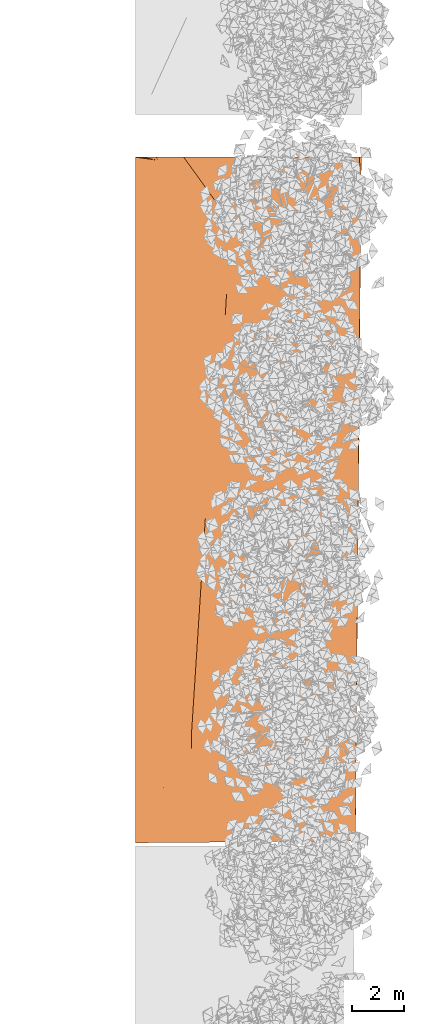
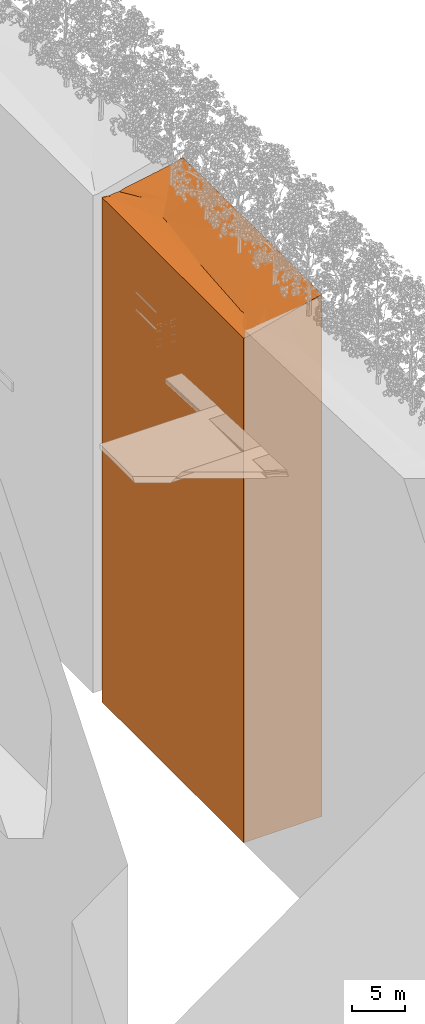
# One storey, part 59 of 69: 1 proxy.
"""IFC2X3 building model written with IfcOpenShell, lengths in millimetres."""

from ifc_helpers import new_model, entity, si_unit, converted_unit, derived_unit, money_unit, direction, frame, origin_with_axes, place, context, subcontext, project, spatial, faceted_brep, material, type_object, element, save


model = new_model("IFC2X3")

# Units and contexts
model_context = context("Model", 3, precision=0.01, world=origin_with_axes(), true_north=direction((0.0, 1.0)))
body_context = subcontext(model_context, "Body", "Model", "MODEL_VIEW")
ifc_project = project(units=[si_unit("LENGTHUNIT", "METRE", prefix="MILLI"), si_unit("AREAUNIT", "SQUARE_METRE"), si_unit("VOLUMEUNIT", "CUBIC_METRE"), converted_unit("PLANEANGLEUNIT", "DEGREE", entity("IfcPlaneAngleMeasure", 0.0174532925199), si_unit("PLANEANGLEUNIT", "RADIAN"), dimensions=[0, 0, 0, 0, 0, 0, 0]), si_unit("SOLIDANGLEUNIT", "STERADIAN"), money_unit("EUR"), converted_unit("TIMEUNIT", "Year", entity("IfcTimeMeasure", 31556926.0), si_unit("TIMEUNIT", "SECOND"), dimensions=[0, 0, 1, 0, 0, 0, 0]), si_unit("MASSUNIT", "GRAM", prefix="KILO"), si_unit("THERMODYNAMICTEMPERATUREUNIT", "DEGREE_CELSIUS"), si_unit("LUMINOUSINTENSITYUNIT", "LUMEN"), si_unit("ENERGYUNIT", "JOULE", prefix="MEGA"), derived_unit("THERMALCONDUCTANCEUNIT", [(si_unit("POWERUNIT", "WATT"), 1), (si_unit("LENGTHUNIT", "METRE"), -1), (si_unit("THERMODYNAMICTEMPERATUREUNIT", "KELVIN"), -1)]), derived_unit("SPECIFICHEATCAPACITYUNIT", [(si_unit("ENERGYUNIT", "JOULE"), 1), (si_unit("MASSUNIT", "GRAM", prefix="KILO"), -1), (si_unit("THERMODYNAMICTEMPERATUREUNIT", "KELVIN"), -1)]), derived_unit("MASSDENSITYUNIT", [(si_unit("MASSUNIT", "GRAM", prefix="KILO"), 1), (si_unit("VOLUMEUNIT", "CUBIC_METRE"), -1)])], contexts=[model_context])

# Site, building, storey
site_placement = place(None, origin_with_axes())
site = spatial("IfcSite", under=ifc_project, at=site_placement, Name="Puškini 31, Narva", CompositionType="ELEMENT")
building_placement = place(site_placement, origin_with_axes())
building = spatial("IfcBuilding", under=site, at=building_placement, Name="Narva Riigigümnaasium", CompositionType="ELEMENT")
storey_placement = place(building_placement, origin_with_axes())
storey = spatial("IfcBuildingStorey", under=building, at=storey_placement, Name="1.korrus 0.00", CompositionType="ELEMENT", Elevation=0.0)

# Proxy
ifc_material = material(Name="Roheala")
building_element_proxy_type = type_object("IfcBuildingElementProxyType", Name="Roheala", PredefinedType="NOTDEFINED")
proxy_placement = place(storey_placement, frame((54780.0000017, 194694.88357, -61100.0), z_axis=(0.0, 0.0, 1.0), x_axis=(1.0, 0.0, 0.0)))
element("IfcBuildingElementProxy", 1, at=proxy_placement, inside=storey, type_object=building_element_proxy_type, material=ifc_material, Name="Roheala", context=body_context, shape_type="Brep", body=[
    faceted_brep([(842.291271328, 4912.84294265, 57700.0), (0.001453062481, 26624.6815672, 57800.0), (0.0, 0.0, 57800.0), (865.881653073, 26503.1470742, 57700.0), (0.0, 0.0, 0.0), (0.001453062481, 26624.6815672, 0.0), (1087.14338126, 2140.6429828, 57700.0), (1646.06922087, 10250.812509, 57600.0), (1661.79614206, 24644.3485964, 57600.0), (263.07632883, 26624.1089151, 57794.4331277), (8549.70299371, 70.1164293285, 0.0), (8549.70299371, 70.1164293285, 59800.0), (8427.01221471, 69.1102377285, 59800.0), (8018.04295212, 65.7562657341, 59700.0), (7609.07368965, 62.4022937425, 59600.0), (7200.10442759, 59.0483217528, 59500.0), (6791.135165, 55.6943497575, 59400.0), (6382.16590254, 52.340377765, 59300.0), (5973.19664048, 48.9864057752, 59200.0), (5564.22737801, 45.6324337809, 59100.0), (5155.25811542, 42.2784617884, 59000.0), (4746.28885283, 38.924489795, 58900.0), (4337.31959089, 35.5705178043, 58800.0), (3928.3503283, 32.2165458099, 58700.0), (3519.38106571, 28.8625738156, 58600.0), (3110.41180378, 25.5086018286, 58500.0), (2701.44254119, 22.1546298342, 58400.0), (2292.4732786, 18.8006578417, 58300.0), (1879.48633013, 15.413736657, 58200.0), (1464.93059093, 12.0139497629, 58100.0), (1050.37485184, 8.6141628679, 58000.0), (635.819112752, 5.21437597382, 57900.0), (221.263372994, 1.8145890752, 57800.0), (263.07632883, 26624.1089151, 0.0), (8776.41925628, 26624.1089151, 0.0), (2178.78085069, 3647.92341441, 57700.0), (2449.84717039, 15588.7820744, 57500.0), (2457.71063094, 22785.5501186, 57500.0), (3183.24817347, 22540.3957742, 57600.0), (3148.05970024, 23347.2178413, 57700.0), (2178.9826361, 4217.20083813, 57600.0), (810.881705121, 26624.1089151, 57708.6348886), (8776.41925628, 26624.1089151, 59324.3533062), (8566.71496661, 2558.92746466, 59800.0), (8463.99823524, 495.136040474, 59800.0), (7892.63318091, 833.505568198, 59600.0), (7606.95065362, 1002.69033161, 59500.0), (7321.26812645, 1171.875095, 59400.0), (7035.58559916, 1341.05985841, 59300.0), (6749.90307187, 1510.24462182, 59200.0), (6464.22054459, 1679.42938523, 59100.0), (6178.53801741, 1848.61414862, 59000.0), (5892.85549013, 2017.79891203, 58900.0), (5607.17296296, 2186.98367636, 58800.0), (5321.49043579, 2356.16843976, 58700.0), (5035.8079085, 2525.35320316, 58600.0), (4750.12538122, 2694.53796657, 58500.0), (4464.44285404, 2863.72272997, 58400.0), (2177.77192426, 801.536298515, 58200.0), (2177.97370954, 1370.81372132, 58100.0), (2178.37728011, 2509.36856786, 57900.0), (822.809979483, 26624.1089151, 57707.6698279), (1345.9444967, 26624.1089151, 57800.0), (1878.31895618, 26624.1089151, 57800.0), (2222.50031744, 26624.1089151, 57925.9332517), (2425.92296941, 26624.1089151, 58000.0), (2971.67734889, 26624.1089151, 58100.0), (3005.14244676, 26624.1089151, 58106.147924), (3518.59522763, 26624.1089151, 58200.0), (3884.0362349, 26624.1089151, 58265.9986729), (4069.84223561, 26624.1089151, 58300.0), (4294.05935025, 26624.1089151, 58341.0303188), (4622.42427113, 26624.1089151, 58400.0), (4932.72305062, 26624.1089151, 58458.7672097), (5158.42767354, 26624.1089151, 58500.0), (5440.83071481, 26624.1089151, 58553.8260891), (5694.93852412, 26624.1089151, 58600.0), (5975.58351361, 26624.1089151, 58647.9302305), (6259.41447712, 26624.1089151, 58700.0), (6470.02118824, 26624.1089151, 58740.1934377), (6798.22897363, 26624.1089151, 58800.0), (6955.69787972, 26624.1089151, 58829.358885), (7345.18920518, 26624.1089151, 58900.0), (7426.76326395, 26624.1089151, 58914.6655814), (7733.94566651, 26624.1089151, 58970.5078343), (7812.96078572, 26624.1089151, 59000.0), (8080.87979889, 26624.1089151, 59100.0), (8348.79881201, 26624.1089151, 59200.0), (8616.71782514, 26624.1089151, 59300.0), (8701.81738807, 26624.1089151, 59300.8542941), (8774.19716442, 26624.1089151, 59331.0356687), (2178.57906552, 3078.64599159, 57800.0), (3524.66923676, 20992.0589694, 57500.0), (3538.90357887, 21289.5232969, 57500.0), (3218.4366467, 21733.573708, 57500.0), (2716.30387795, 12571.976239, 57500.0), (3489.63993306, 20492.1184482, 57500.0), (4109.46049663, 22015.0666082, 57700.0), (3824.18203769, 21652.2949521, 57600.0), (3112.87122701, 24154.0399075, 57800.0), (8699.8075335, 18790.9304939, 59500.0), (8623.42154277, 9607.41695609, 59700.0), (8178.31570807, 664.320803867, 59700.0), (4178.76032676, 3032.90749338, 58300.0), (2178.17549495, 1940.09114504, 58000.0), (3077.68275378, 24960.8619746, 57800.0), (3042.49428055, 25767.6840408, 58000.0), (3007.30580732, 26574.506108, 58100.0), (5250.57433214, 23466.1532308, 58100.0), (5535.85279108, 23828.9248869, 58200.0), (5821.1312499, 24191.696542, 58300.0), (6106.40970884, 24554.4681982, 58400.0), (6391.68816778, 24917.2398543, 58500.0), (6676.9666266, 25280.0115094, 58600.0), (6962.24508554, 25642.7831655, 58700.0), (7247.52354448, 26005.5548216, 58800.0), (7532.8020033, 26368.3264768, 58900.0), (7319.28687111, 21906.3615649, 58900.0), (7590.33098794, 21971.6688936, 59000.0), (7861.37510477, 22036.9762222, 59100.0), (8132.41922147, 22102.2835499, 59200.0), (8403.4633383, 22167.5908785, 59300.0), (8743.54401402, 23675.600188, 59400.0), (2464.66516338, 4048.01607472, 57700.0), (2750.34769056, 3878.83131133, 57800.0), (3795.71335346, 21057.3662972, 57600.0), (3725.65474595, 20057.4852548, 57600.0), (4394.73895544, 22377.8382634, 57800.0), (4066.75747017, 21122.6736258, 57700.0), (8663.67160266, 14472.1440251, 59600.0), (8386.46361811, 10755.5796882, 59600.0), (8076.08956912, 10428.660746, 59500.0), (7765.71552002, 10101.7418037, 59400.0), (7455.34147091, 9774.82286141, 59300.0), (7144.9674218, 9447.90391821, 59200.0), (6834.5933727, 9120.98497594, 59100.0), (6524.21932359, 8794.06603366, 59000.0), (6213.84527436, 8467.14709047, 58900.0), (5903.47122537, 8140.22814819, 58800.0), (5593.09717627, 7813.30920592, 58700.0), (5282.72312717, 7486.39026365, 58600.0), (4972.34907794, 7159.47132045, 58500.0), (4661.97502895, 6832.55237817, 58400.0), (4351.60097984, 6505.6334359, 58300.0), (3893.07779947, 3202.09225679, 58200.0), (3607.39527218, 3371.27702019, 58100.0), (3321.71274513, 3540.46178451, 58000.0), (3036.03021785, 3709.64654792, 57900.0), (4680.01741438, 22740.6099195, 57900.0), (4965.29587333, 23103.3815756, 58000.0), (5421.97805394, 21449.2102672, 58200.0), (5150.93393711, 21383.9029385, 58100.0), (5693.02217076, 21514.5175958, 58300.0), (5964.06628746, 21579.8249235, 58400.0), (6235.11040418, 21645.1322522, 58500.0), (6506.15452088, 21710.4395799, 58600.0), (6777.1986377, 21775.7469085, 58700.0), (7048.24275453, 21841.0542372, 58800.0), (6793.8473157, 14407.2537479, 58900.0), (7029.86212883, 13972.6205553, 59000.0), (7265.87694197, 13537.9873628, 59100.0), (7501.89175486, 13103.3541693, 59200.0), (7737.90656799, 12668.7209767, 59300.0), (8674.50745488, 22232.8982063, 59400.0), (2489.3566852, 4544.1197804, 57700.0), (2799.73073432, 4871.03872361, 57800.0), (3961.66955908, 19622.8520622, 57700.0), (4337.80158687, 21187.9809535, 57800.0), (8209.93619413, 11799.4545907, 59500.0), (8445.95100714, 11364.8213981, 59600.0), (7973.92138112, 12234.0877842, 59400.0), (6557.83250281, 14841.8869413, 58800.0), (6321.81768968, 15276.5201339, 58700.0), (6085.80287655, 15711.1533265, 58600.0), (5849.78806353, 16145.786519, 58500.0), (5613.77325052, 16580.4197125, 58400.0), (5377.75843739, 17015.052905, 58300.0), (4041.22693074, 6178.71449363, 58200.0), (3730.85288163, 5851.79555042, 58100.0), (3420.47883252, 5524.87660815, 58000.0), (3110.10478342, 5197.95766588, 57900.0), (4879.88982052, 21318.5956108, 58000.0), (4905.72881137, 17884.3192911, 58100.0), (5141.74362438, 17449.6860976, 58200.0), (4197.68437222, 19188.2188697, 57800.0), (4608.8457037, 21253.2882822, 57900.0), (4669.71399824, 18318.9524836, 58000.0), (4433.69918511, 18753.5856762, 57900.0)], [[[0, 1, 2]], [[1, 0, 3]], [[4, 2, 1, 5]], [[0, 2, 6]], [[7, 8, 3, 0]], [[9, 1, 3]], [[10, 11, 12, 13, 14, 15, 16, 17, 18, 19, 20, 21, 22, 23, 24, 25, 26, 27, 28, 29, 30, 31, 32, 2, 4]], [[5, 1, 9, 33]], [[5, 33, 34, 10, 4]], [[32, 6, 2]], [[6, 35, 0]], [[36, 37, 8, 7]], [[8, 38, 39, 3]], [[0, 40, 7]], [[41, 9, 3]], [[34, 42, 11, 10]], [[11, 43, 44, 12]], [[12, 44, 13]], [[13, 45, 14]], [[14, 46, 15]], [[15, 47, 16]], [[16, 48, 17]], [[17, 49, 18]], [[18, 50, 19]], [[19, 51, 20]], [[20, 52, 21]], [[21, 53, 22]], [[22, 54, 23]], [[23, 55, 24]], [[24, 56, 25]], [[25, 57, 26]], [[27, 26, 57]], [[28, 27, 58]], [[28, 58, 29]], [[30, 29, 59]], [[31, 30, 60]], [[32, 31, 60]], [[33, 9, 41, 61, 62, 63, 64, 65, 66, 67, 68, 69, 70, 71, 72, 73, 74, 75, 76, 77, 78, 79, 80, 81, 82, 83, 84, 85, 86, 87, 88, 89, 90, 42, 34]], [[6, 32, 91]], [[6, 91, 35]], [[40, 0, 35]], [[92, 93, 94, 37, 36, 95, 96]], [[37, 94, 38, 8]], [[7, 40, 95, 36]], [[97, 39, 38, 98]], [[99, 3, 39]], [[61, 41, 3]], [[100, 11, 42]], [[43, 11, 101]], [[43, 101, 102, 44]], [[102, 13, 44]], [[45, 13, 102]], [[46, 14, 45]], [[47, 15, 46]], [[48, 16, 47]], [[49, 17, 48]], [[50, 18, 49]], [[51, 19, 50]], [[52, 20, 51]], [[53, 21, 52]], [[54, 22, 53]], [[55, 23, 54]], [[56, 24, 55]], [[57, 25, 56]], [[57, 103, 27]], [[58, 27, 103]], [[58, 59, 29]], [[59, 104, 30]], [[60, 30, 104]], [[60, 91, 32]], [[61, 3, 99, 62]], [[99, 105, 63, 62]], [[106, 64, 63, 105]], [[65, 64, 106]], [[66, 65, 107]], [[67, 66, 107]], [[67, 107, 108, 109, 68]], [[69, 68, 109]], [[70, 69, 109, 110]], [[71, 70, 110]], [[72, 71, 110]], [[73, 72, 111]], [[111, 112, 74, 73]], [[75, 74, 112]], [[76, 75, 112, 113]], [[77, 76, 113]], [[113, 114, 78, 77]], [[79, 78, 114]], [[114, 115, 80, 79]], [[81, 80, 115]], [[115, 116, 82, 81]], [[83, 82, 116]], [[83, 116, 84]], [[117, 118, 85, 84, 116]], [[86, 85, 118, 119]], [[87, 86, 119, 120]], [[120, 121, 88, 87]], [[89, 88, 122]], [[90, 89, 122]], [[42, 90, 122]], [[123, 35, 91, 124]], [[40, 35, 123]], [[125, 98, 93, 92]], [[94, 93, 98, 38]], [[126, 96, 95, 40]], [[92, 96, 126, 125]], [[39, 97, 127, 99]], [[125, 128, 97, 98]], [[129, 11, 100]], [[122, 100, 42]], [[101, 11, 129]], [[45, 102, 101, 130]], [[131, 46, 45, 130]], [[132, 47, 46, 131]], [[48, 47, 132, 133]], [[49, 48, 133, 134]], [[50, 49, 134, 135]], [[136, 51, 50, 135]], [[52, 51, 136, 137]], [[53, 52, 137, 138]], [[54, 53, 138, 139]], [[140, 55, 54, 139]], [[55, 140, 141, 56]], [[57, 56, 141, 142]], [[57, 142, 143, 103]], [[103, 144, 58]], [[144, 145, 59, 58]], [[145, 146, 104, 59]], [[146, 147, 60, 104]], [[124, 91, 60, 147]], [[99, 148, 105]], [[105, 149, 106]], [[106, 107, 65]], [[149, 108, 107, 106]], [[150, 109, 108, 151]], [[109, 150, 152, 110]], [[110, 111, 72]], [[111, 153, 154, 112]], [[112, 154, 155, 113]], [[155, 156, 114, 113]], [[157, 115, 114, 156]], [[115, 157, 117, 116]], [[117, 158, 159, 118]], [[118, 159, 160, 119]], [[160, 161, 120, 119]], [[161, 162, 121, 120]], [[122, 88, 121, 163]], [[164, 123, 124, 165]], [[123, 164, 40]], [[126, 40, 164, 166]], [[128, 125, 126, 166]], [[97, 128, 167, 127]], [[148, 99, 127]], [[129, 100, 168, 169]], [[163, 100, 122]], [[169, 101, 129]], [[130, 101, 169]], [[168, 131, 130, 169]], [[170, 132, 131, 168]], [[162, 133, 132, 170]], [[162, 161, 134, 133]], [[135, 134, 161, 160]], [[136, 135, 160, 159]], [[137, 136, 159, 158]], [[158, 171, 138, 137]], [[171, 172, 139, 138]], [[140, 139, 172, 173]], [[174, 141, 140, 173]], [[175, 142, 141, 174]], [[142, 175, 176, 143]], [[177, 144, 103, 143]], [[178, 145, 144, 177]], [[179, 146, 145, 178]], [[180, 147, 146, 179]], [[165, 124, 147, 180]], [[149, 105, 148]], [[149, 181, 151, 108]], [[150, 151, 182, 183]], [[183, 176, 152, 150]], [[152, 153, 111, 110]], [[153, 175, 174, 154]], [[154, 174, 173, 155]], [[173, 172, 156, 155]], [[156, 172, 171, 157]], [[171, 158, 117, 157]], [[121, 162, 170, 163]], [[166, 164, 165, 184]], [[167, 128, 166, 184]], [[185, 148, 127, 167]], [[170, 168, 100, 163]], [[153, 152, 176, 175]], [[177, 143, 176, 183]], [[183, 182, 178, 177]], [[179, 178, 182, 186]], [[179, 186, 187, 180]], [[165, 180, 187, 184]], [[181, 149, 148, 185]], [[186, 182, 151, 181]], [[184, 187, 185, 167]], [[187, 186, 181, 185]]]),
])

save(model, "model.ifc")
